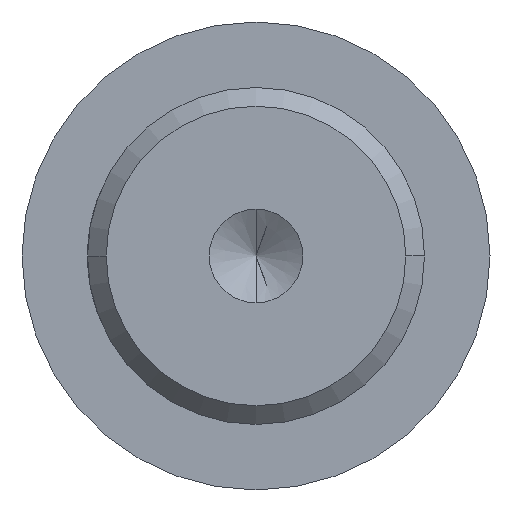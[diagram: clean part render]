
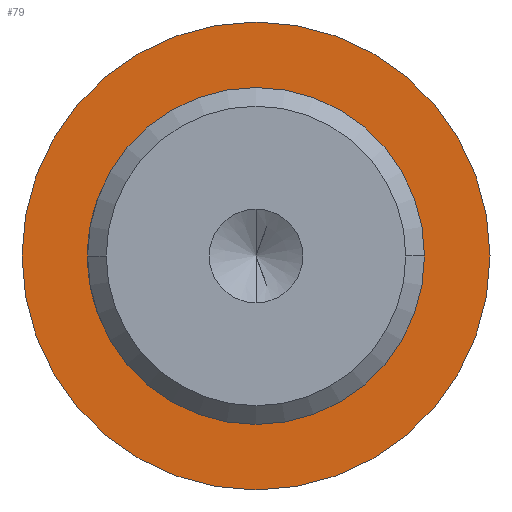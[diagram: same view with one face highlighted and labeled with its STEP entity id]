
A CAD part, left-side view. The second image highlights one B-rep face of the part: STEP entity #79.
In plain terms, the highlighted planar face has unit normal (-1, 0, 0).
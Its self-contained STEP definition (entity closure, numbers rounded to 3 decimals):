
#68 = EDGE_LOOP ( 'NONE', ( #129, #130 ) ) ;
#69 = ORIENTED_EDGE ( 'NONE', *, *, #136, .F. ) ;
#72 = ORIENTED_EDGE ( 'NONE', *, *, #78, .F. ) ;
#78 = EDGE_CURVE ( 'NONE', #135, #137, #410, .T. ) ;
#79 = ADVANCED_FACE ( 'NONE', ( #409, #400 ), #401, .T. ) ;
#80 = EDGE_LOOP ( 'NONE', ( #69, #72 ) ) ;
#84 = EDGE_CURVE ( 'NONE', #1134, #1170, #462, .T. ) ;
#129 = ORIENTED_EDGE ( 'NONE', *, *, #1167, .T. ) ;
#130 = ORIENTED_EDGE ( 'NONE', *, *, #84, .T. ) ;
#135 = VERTEX_POINT ( 'NONE', #546 ) ;
#136 = EDGE_CURVE ( 'NONE', #137, #135, #535, .T. ) ;
#137 = VERTEX_POINT ( 'NONE', #541 ) ;
#372 = AXIS2_PLACEMENT_3D ( 'NONE', #399, #398, #461 ) ;
#395 = DIRECTION ( 'NONE',  ( 0., 1., 0. ) ) ;
#396 = DIRECTION ( 'NONE',  ( 1., 0., 0. ) ) ;
#397 = AXIS2_PLACEMENT_3D ( 'NONE', #404, #396, #395 ) ;
#398 = DIRECTION ( 'NONE',  ( -1., 0., 0. ) ) ;
#399 = CARTESIAN_POINT ( 'NONE',  ( 83., 12.5, 0. ) ) ;
#400 = FACE_OUTER_BOUND ( 'NONE', #80, .T. ) ;
#401 = PLANE ( 'NONE',  #372 ) ;
#404 = CARTESIAN_POINT ( 'NONE',  ( 83., 0., 0. ) ) ;
#409 = FACE_BOUND ( 'NONE', #68, .T. ) ;
#410 = CIRCLE ( 'NONE', #397, 12.5 ) ;
#455 = DIRECTION ( 'NONE',  ( 0., 1., 0. ) ) ;
#456 = DIRECTION ( 'NONE',  ( 1., 0., 0. ) ) ;
#457 = CARTESIAN_POINT ( 'NONE',  ( 83., 0., 0. ) ) ;
#458 = AXIS2_PLACEMENT_3D ( 'NONE', #457, #456, #455 ) ;
#461 = DIRECTION ( 'NONE',  ( 0., -1., 0. ) ) ;
#462 = CIRCLE ( 'NONE', #458, 9. ) ;
#532 = DIRECTION ( 'NONE',  ( 0., 1., 0. ) ) ;
#533 = DIRECTION ( 'NONE',  ( 1., 0., 0. ) ) ;
#534 = CARTESIAN_POINT ( 'NONE',  ( 83., 0., 0. ) ) ;
#535 = CIRCLE ( 'NONE', #543, 12.5 ) ;
#541 = CARTESIAN_POINT ( 'NONE',  ( 83., 12.5, 0. ) ) ;
#543 = AXIS2_PLACEMENT_3D ( 'NONE', #534, #533, #532 ) ;
#546 = CARTESIAN_POINT ( 'NONE',  ( 83., -12.5, 0. ) ) ;
#912 = CARTESIAN_POINT ( 'NONE',  ( 83., -9., 0. ) ) ;
#941 = DIRECTION ( 'NONE',  ( 1., 0., 0. ) ) ;
#961 = CARTESIAN_POINT ( 'NONE',  ( 83., 9., 0. ) ) ;
#966 = DIRECTION ( 'NONE',  ( 0., 1., 0. ) ) ;
#973 = CARTESIAN_POINT ( 'NONE',  ( 83., 0., 0. ) ) ;
#974 = CIRCLE ( 'NONE', #977, 9. ) ;
#977 = AXIS2_PLACEMENT_3D ( 'NONE', #973, #941, #966 ) ;
#1134 = VERTEX_POINT ( 'NONE', #912 ) ;
#1167 = EDGE_CURVE ( 'NONE', #1170, #1134, #974, .T. ) ;
#1170 = VERTEX_POINT ( 'NONE', #961 ) ;
